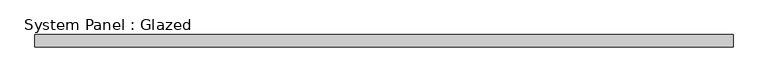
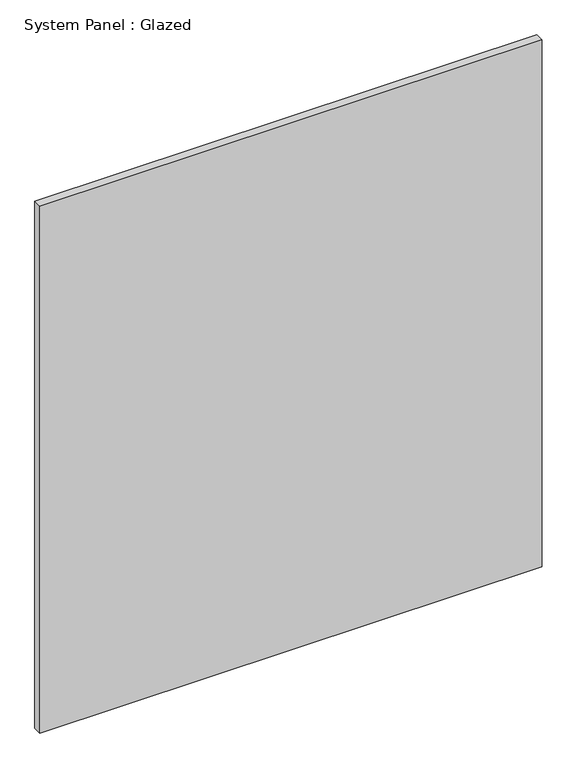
"""IFC4 building model written with IfcOpenShell, lengths in millimetres: plate geometry, System Panel : Glazed."""

from ifc_helpers import new_model, si_unit, origin, origin_with_axes, place, context, project, spatial, polyline, outline, extrude, source, transform, mapped, element, save


def system_panel_glazed_09342f65(model_context):
    return source(origin(), model_context, "Body", "SweptSolid", [
        extrude(outline(polyline([(727.075, 19.05), (-727.075, 19.05), (-727.075, 44.45), (727.075, 44.45), (727.075, 19.05)])), origin_with_axes(), (0.0, 0.0, 1.0), 1612.9),
    ])


if __name__ == "__main__":
    model = new_model("IFC4")
    model_context = context("Model", 3, world=origin())
    ifc_project = project(units=[si_unit("LENGTHUNIT", "METRE", prefix="MILLI")], contexts=[model_context])
    site = spatial("IfcSite", under=ifc_project)
    building = spatial("IfcBuilding", under=site)
    placement = place(None, origin())
    system_panel_glazed_shape = system_panel_glazed_09342f65(model_context)
    element("IfcPlate", 1, ObjectType="System Panel : Glazed", at=placement, inside=building, context=model_context, shape_type="MappedRepresentation", body=[
        mapped(system_panel_glazed_shape, transform((0.0, 0.0, 0.0), x_axis=(1.0, 0.0, 0.0), y_axis=(0.0, 1.0, 0.0), z_axis=(0.0, 0.0, 1.0))),
    ])
    save(model, "model.ifc")
